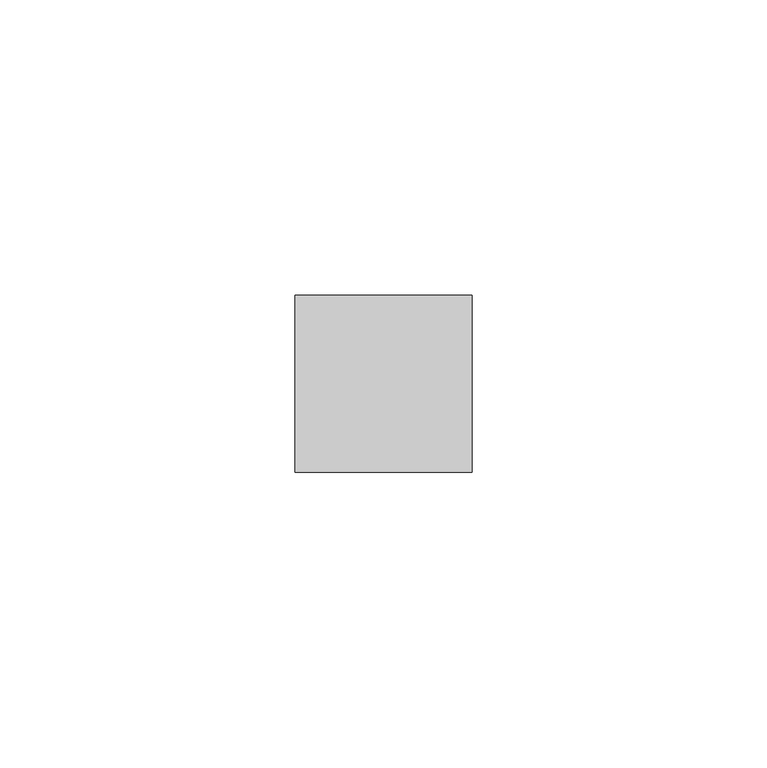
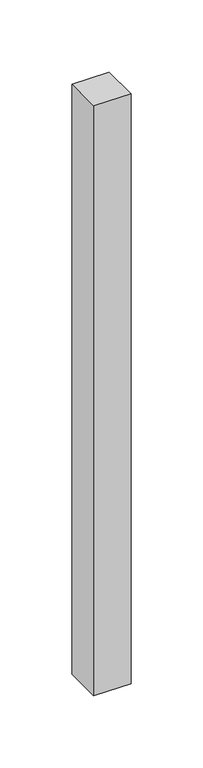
"""IFC4 building model written with IfcOpenShell, lengths in millimetres: member geometry, 矩形竖梃 : 30mm 正方形."""

from ifc_helpers import new_model, si_unit, frame, origin, place, context, project, spatial, polyline, outline, extrude, source, transform, mapped, element, save


def member_c456a22c(model_context):
    return source(origin(), model_context, "Body", "SweptSolid", [
        extrude(outline(polyline([(0.0, 15.0), (0.0, -15.0), (-30.0, -15.0), (-30.0, 15.0), (0.0, 15.0)])), frame((0.0, 0.0, -500.0), z_axis=(0.0, 0.0, 1.0), x_axis=(1.0, 0.0, 0.0)), (0.0, 0.0, 1.0), 500.0),
    ])


if __name__ == "__main__":
    model = new_model("IFC4")
    model_context = context("Model", 3, world=origin())
    ifc_project = project(units=[si_unit("LENGTHUNIT", "METRE", prefix="MILLI")], contexts=[model_context])
    site = spatial("IfcSite", under=ifc_project)
    building = spatial("IfcBuilding", under=site)
    placement = place(None, origin())
    member_shape = member_c456a22c(model_context)
    element("IfcMember", 1, ObjectType="矩形竖梃 : 30mm 正方形", at=placement, inside=building, context=model_context, shape_type="MappedRepresentation", body=[
        mapped(member_shape, transform((0.0, 0.0, 0.0), x_axis=(1.0, 0.0, 0.0), y_axis=(0.0, 1.0, 0.0), z_axis=(0.0, 0.0, 1.0))),
    ])
    save(model, "model.ifc")
